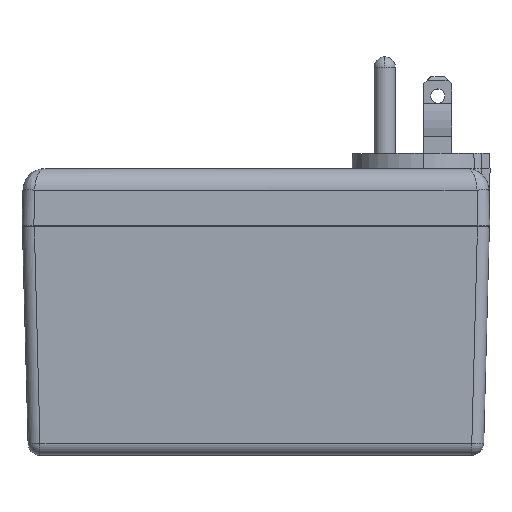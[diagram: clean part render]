
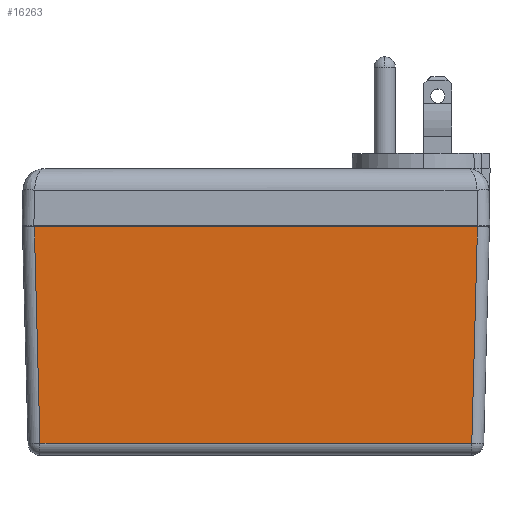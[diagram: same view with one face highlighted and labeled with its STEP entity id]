
A CAD part, top view. The second image highlights one B-rep face of the part: STEP entity #16263.
In plain terms, the highlighted planar face has unit normal (0, -0.026, 1).
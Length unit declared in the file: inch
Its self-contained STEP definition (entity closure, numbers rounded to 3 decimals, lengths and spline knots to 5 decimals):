
#442 = VECTOR ( 'NONE', #2854, 39.37008 ) ;
#466 = VECTOR ( 'NONE', #2904, 39.37008 ) ;
#467 = LINE ( 'NONE', #2905, #466 ) ;
#471 = VECTOR ( 'NONE', #2906, 39.37008 ) ;
#478 = LINE ( 'NONE', #2912, #471 ) ;
#646 = VECTOR ( 'NONE', #2901, 39.37008 ) ;
#667 = LINE ( 'NONE', #2909, #646 ) ;
#673 = LINE ( 'NONE', #2872, #442 ) ;
#2854 = DIRECTION ( 'NONE',  ( 1., 0., 0. ) ) ;
#2872 = CARTESIAN_POINT ( 'NONE',  ( -2.0545, -1.90275, 1.06617 ) ) ;
#2901 = DIRECTION ( 'NONE',  ( 0.026, 0.999, 0.026 ) ) ;
#2904 = DIRECTION ( 'NONE',  ( 0.026, -0.999, -0.026 ) ) ;
#2905 = CARTESIAN_POINT ( 'NONE',  ( -1.94961, 0.00274, 1.11607 ) ) ;
#2906 = DIRECTION ( 'NONE',  ( 1., 0., 0. ) ) ;
#2909 = CARTESIAN_POINT ( 'NONE',  ( 1.94679, -0.10471, 1.11326 ) ) ;
#2912 = CARTESIAN_POINT ( 'NONE',  ( -2.0545, 0., 1.116 ) ) ;
#3817 = FACE_OUTER_BOUND ( 'NONE', #20112, .T. ) ;
#5212 = CARTESIAN_POINT ( 'NONE',  ( -1.89971, -1.90275, 1.06617 ) ) ;
#5258 = CARTESIAN_POINT ( 'NONE',  ( 1.89971, -1.90275, 1.06617 ) ) ;
#5313 = CARTESIAN_POINT ( 'NONE',  ( -1.94954, 0., 1.116 ) ) ;
#8215 = CARTESIAN_POINT ( 'NONE',  ( 1.94954, 0., 1.116 ) ) ;
#9336 = DIRECTION ( 'NONE',  ( 0., -1., -0.026 ) ) ;
#9338 = DIRECTION ( 'NONE',  ( 0., -0.026, 1. ) ) ;
#9341 = PLANE ( 'NONE',  #13246 ) ;
#9342 = CARTESIAN_POINT ( 'NONE',  ( -2.0545, 0., 1.116 ) ) ;
#10649 = ORIENTED_EDGE ( 'NONE', *, *, #20708, .F. ) ;
#10651 = ORIENTED_EDGE ( 'NONE', *, *, #20710, .T. ) ;
#10653 = ORIENTED_EDGE ( 'NONE', *, *, #20709, .T. ) ;
#10664 = ORIENTED_EDGE ( 'NONE', *, *, #20724, .T. ) ;
#13246 = AXIS2_PLACEMENT_3D ( 'NONE', #9342, #9338, #9336 ) ;
#16263 = ADVANCED_FACE ( 'NONE', ( #3817 ), #9341, .T. ) ;
#19266 = VERTEX_POINT ( 'NONE', #8215 ) ;
#19279 = VERTEX_POINT ( 'NONE', #5212 ) ;
#19290 = VERTEX_POINT ( 'NONE', #5313 ) ;
#19317 = VERTEX_POINT ( 'NONE', #5258 ) ;
#20112 = EDGE_LOOP ( 'NONE', ( #10664, #10651, #10649, #10653 ) ) ;
#20708 = EDGE_CURVE ( 'NONE', #19290, #19266, #478, .T. ) ;
#20709 = EDGE_CURVE ( 'NONE', #19290, #19279, #467, .T. ) ;
#20710 = EDGE_CURVE ( 'NONE', #19317, #19266, #667, .T. ) ;
#20724 = EDGE_CURVE ( 'NONE', #19279, #19317, #673, .T. ) ;
